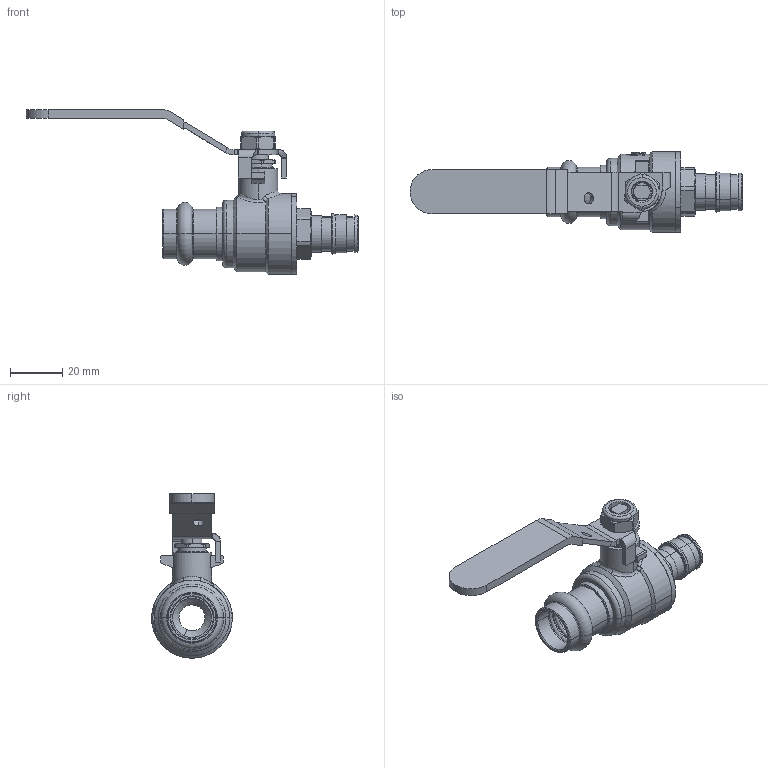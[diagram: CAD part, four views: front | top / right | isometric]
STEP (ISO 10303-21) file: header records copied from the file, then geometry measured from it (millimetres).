
FILE_DESCRIPTION(('Open CASCADE Model'),'2;1');
FILE_NAME('Open CASCADE Shape Model','2021-12-17T10:56:16',('Author'),( 'Open CASCADE'),'Open CASCADE STEP processor 7.3','Open CASCADE 7.3' ,'Unknown');
FILE_SCHEMA(('AUTOMOTIVE_DESIGN { 1 0 10303 214 1 1 1 1 }'));
Length unit declared in the file: millimetre
Products named in the file (13): Open CASCADE STEP translator 7.3 1; Open CASCADE STEP translator 7.3 1.1; Open CASCADE STEP translator 7.3 1.2; Open CASCADE STEP translator 7.3 1.3; Open CASCADE STEP translator 7.3 1.4; Open CASCADE STEP translator 7.3 1.5; Open CASCADE STEP translator 7.3 1.6; Open CASCADE STEP translator 7.3 1.7; Open CASCADE STEP translator 7.3 1.8; Open CASCADE STEP translator 7.3 1.9; Open CASCADE STEP translator 7.3 1.10; Open CASCADE STEP translator 7.3 1.11; Open CASCADE STEP translator 7.3 1.12
Assembly tree (12 placements, depth 2):
  Open CASCADE STEP translator 7.3 1
    Open CASCADE STEP translator 7.3 1.1
    Open CASCADE STEP translator 7.3 1.2
    Open CASCADE STEP translator 7.3 1.3
    Open CASCADE STEP translator 7.3 1.4
    Open CASCADE STEP translator 7.3 1.5
    Open CASCADE STEP translator 7.3 1.6
    Open CASCADE STEP translator 7.3 1.7
    Open CASCADE STEP translator 7.3 1.8
    Open CASCADE STEP translator 7.3 1.9
    Open CASCADE STEP translator 7.3 1.10
    Open CASCADE STEP translator 7.3 1.11
    Open CASCADE STEP translator 7.3 1.12
Bounding box: 127.5 x 31 x 63.15 mm (x, y, z)
Volume: 26014.2 mm3; surface area: 25096.7 mm2
Topology: 12 solids, 12 shells, 609 faces, 1553 edges, 995 vertices
Faces by surface type: cylinder 190, plane 168, bspline 127, cone 74, torus 42, sphere 6, revolution 2
Entity records: 87035 total; most frequent: CARTESIAN_POINT 59179, DIRECTION 4192, ORIENTED_EDGE 3102, PCURVE 3102, DEFINITIONAL_REPRESENTATION 3102, LINE 2106, VECTOR 2106, B_SPLINE_CURVE_WITH_KNOTS 1634
